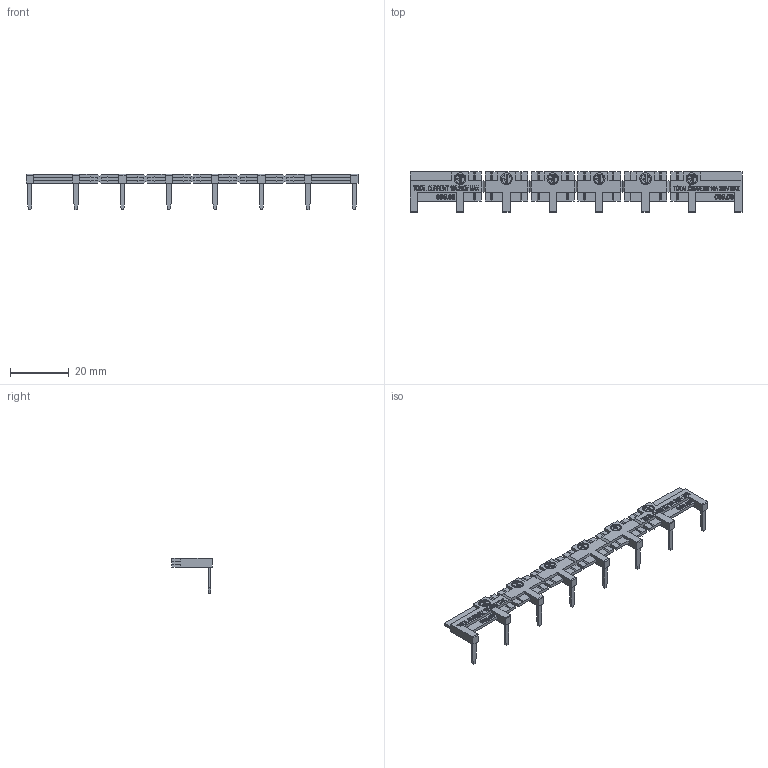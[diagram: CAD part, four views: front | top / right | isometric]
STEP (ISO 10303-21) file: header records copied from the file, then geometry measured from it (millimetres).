
FILE_DESCRIPTION(/* description */ ('Unknown'),/* implementation_level */ '2;1');
FILE_NAME(/* name */ '09508',/* time_stamp */ '2021-07-07T09:08:52+02:00',/* author */ ('Unknown'),/* organization */ ('Unknown'),/* preprocessor_version */ 'ST-DEVELOPER v16.7',/* originating_system */ 'DEX',/* authorisation */ $);
FILE_SCHEMA (('AUTOMOTIVE_DESIGN {1 0 10303 214 3 1 1}'));
Length unit declared in the file: millimetre
Products named in the file (1): 09508
Bounding box: 113.1 x 13.8 x 12 mm (x, y, z)
Volume: 2627.3 mm3; surface area: 3941.3 mm2
Topology: 1 solids, 1 shells, 1228 faces, 3336 edges, 2224 vertices
Faces by surface type: plane 890, bspline 280, cylinder 58
Full cylindrical faces by diameter (mm): 4 x6
Entity records: 48392 total; most frequent: CARTESIAN_POINT 10565, ORIENTED_EDGE 6660, DIRECTION 4794, EDGE_CURVE 3330, LINE 2632, VECTOR 2632, VERTEX_POINT 2224, EDGE_LOOP 1348
